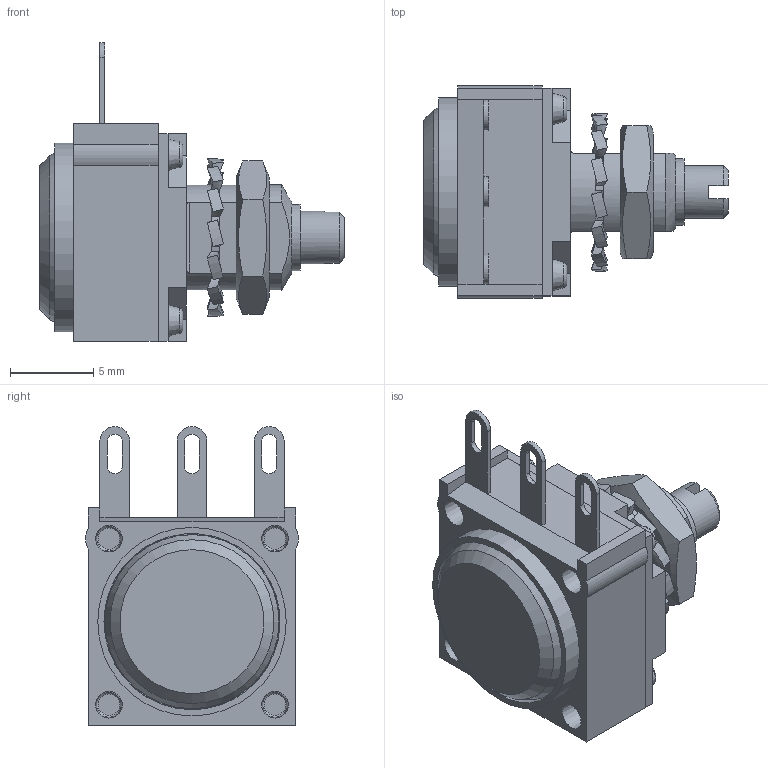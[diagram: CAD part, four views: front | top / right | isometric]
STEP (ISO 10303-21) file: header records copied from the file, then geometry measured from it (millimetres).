
FILE_DESCRIPTION(/* description */ ('Unknown'),/* implementation_level */ '2;1');
FILE_NAME(/* name */ 'P11S1A0BASY00102KA',/* time_stamp */ '2025-01-20T14:35:08+01:00',/* author */ ('BMERLE'),/* organization */ ('VISHAYSA'),/* preprocessor_version */ 'ST-DEVELOPER v19.4',/* originating_system */ 'Solid Edge',/* authorisation */ 'Unknown');
FILE_SCHEMA (('AUTOMOTIVE_DESIGN {1 0 10303 214 3 1 1}'));
Length unit declared in the file: millimetre
Products named in the file (1): P11S1A0BASY00102KA
Bounding box: 18.35 x 12.8 x 18 mm (x, y, z)
Volume: 929.2 mm3; surface area: 2347.1 mm2
Topology: 10 solids, 10 shells, 470 faces, 1284 edges, 849 vertices
Faces by surface type: plane 237, cylinder 139, bspline 56, cone 31, torus 7
Full cylindrical faces by diameter (mm): 1.3 x4, 1.5 x8, 1.55 x4, 2.55 x1, 2.6 x1, 2.66 x1, 3.17 x1, 4 x1, 4.1 x1, 5.25 x1, 5.491 x1, 6.4 x1, 6.65 x1, 7.42 x1, 7.44 x1, 8.4 x1, 9.65 x1, 10.6 x1, 11.35 x1
Entity records: 15968 total; most frequent: CARTESIAN_POINT 4002, ORIENTED_EDGE 2388, DIRECTION 2179, EDGE_CURVE 1194, VERTEX_POINT 821, AXIS2_PLACEMENT_3D 738, LINE 703, VECTOR 703
